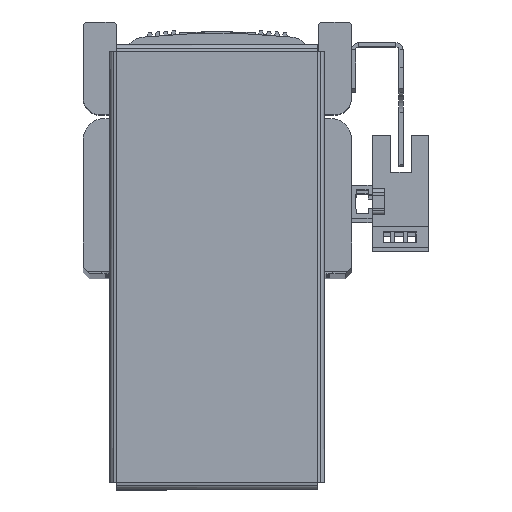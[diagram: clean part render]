
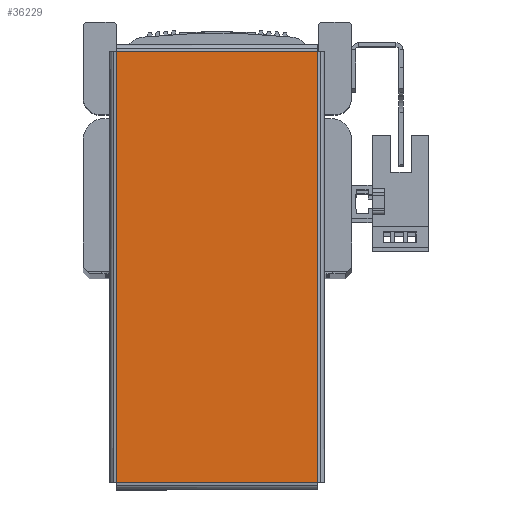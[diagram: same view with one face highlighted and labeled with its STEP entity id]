
A CAD part, top view. The second image highlights one B-rep face of the part: STEP entity #36229.
In plain terms, the highlighted planar face has unit normal (0, 0, 1) as drawn and (0, 0, -1) by its records, which use the part's own axes.
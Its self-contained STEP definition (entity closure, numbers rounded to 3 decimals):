
#3268 = EDGE_LOOP ( 'NONE', ( #41308, #41353, #41206, #41229 ) ) ;
#17076 = FACE_OUTER_BOUND ( 'NONE', #3268, .T. ) ;
#18514 = DIRECTION ( 'NONE',  ( 1., 0., 0. ) ) ;
#18521 = CARTESIAN_POINT ( 'NONE',  ( 0., 0., -1. ) ) ;
#18536 = DIRECTION ( 'NONE',  ( 0., 0., 1. ) ) ;
#18543 = PLANE ( 'NONE',  #42921 ) ;
#20508 = DIRECTION ( 'NONE',  ( -1., 0., 0. ) ) ;
#20563 = CARTESIAN_POINT ( 'NONE',  ( 52.293, -24.363, -1. ) ) ;
#21187 = CARTESIAN_POINT ( 'NONE',  ( -52.263, -24.393, -1. ) ) ;
#21202 = DIRECTION ( 'NONE',  ( 0., 1., 0. ) ) ;
#21308 = DIRECTION ( 'NONE',  ( 1., 0., 0. ) ) ;
#21325 = CARTESIAN_POINT ( 'NONE',  ( -52.293, 24.363, -1. ) ) ;
#21446 = DIRECTION ( 'NONE',  ( 0., -1., 0. ) ) ;
#21448 = CARTESIAN_POINT ( 'NONE',  ( 52.263, 24.393, -1. ) ) ;
#22474 = LINE ( 'NONE', #20563, #22490 ) ;
#22490 = VECTOR ( 'NONE', #20508, 1000. ) ;
#22617 = LINE ( 'NONE', #21325, #22665 ) ;
#22654 = LINE ( 'NONE', #21187, #22664 ) ;
#22664 = VECTOR ( 'NONE', #21202, 1000. ) ;
#22665 = VECTOR ( 'NONE', #21308, 1000. ) ;
#22680 = LINE ( 'NONE', #21448, #22723 ) ;
#22723 = VECTOR ( 'NONE', #21446, 1000. ) ;
#27870 = VERTEX_POINT ( 'NONE', #33276 ) ;
#27880 = VERTEX_POINT ( 'NONE', #33370 ) ;
#27891 = VERTEX_POINT ( 'NONE', #33367 ) ;
#27900 = VERTEX_POINT ( 'NONE', #33360 ) ;
#33276 = CARTESIAN_POINT ( 'NONE',  ( 52.263, 24.363, -1. ) ) ;
#33360 = CARTESIAN_POINT ( 'NONE',  ( -52.263, 24.363, -1. ) ) ;
#33367 = CARTESIAN_POINT ( 'NONE',  ( -52.263, -24.363, -1. ) ) ;
#33370 = CARTESIAN_POINT ( 'NONE',  ( 52.263, -24.363, -1. ) ) ;
#36229 = ADVANCED_FACE ( 'NONE', ( #17076 ), #18543, .F. ) ;
#36702 = EDGE_CURVE ( 'NONE', #27880, #27891, #22474, .T. ) ;
#36785 = EDGE_CURVE ( 'NONE', #27891, #27900, #22654, .T. ) ;
#36796 = EDGE_CURVE ( 'NONE', #27900, #27870, #22617, .T. ) ;
#36827 = EDGE_CURVE ( 'NONE', #27870, #27880, #22680, .T. ) ;
#41206 = ORIENTED_EDGE ( 'NONE', *, *, #36785, .T. ) ;
#41229 = ORIENTED_EDGE ( 'NONE', *, *, #36796, .T. ) ;
#41308 = ORIENTED_EDGE ( 'NONE', *, *, #36827, .T. ) ;
#41353 = ORIENTED_EDGE ( 'NONE', *, *, #36702, .T. ) ;
#42921 = AXIS2_PLACEMENT_3D ( 'NONE', #18521, #18536, #18514 ) ;
